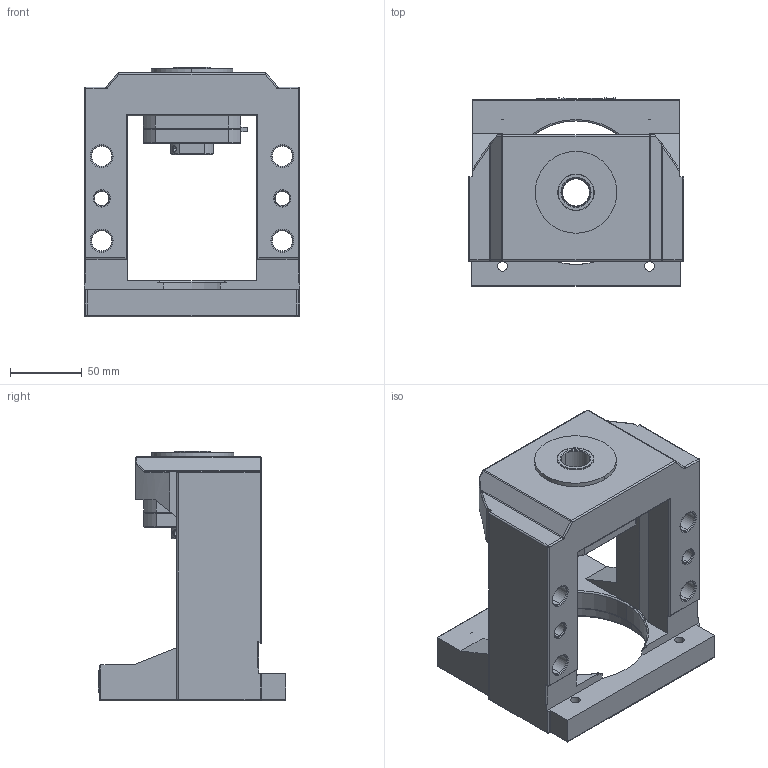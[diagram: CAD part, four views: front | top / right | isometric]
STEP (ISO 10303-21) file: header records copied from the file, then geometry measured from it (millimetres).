
FILE_DESCRIPTION((''),'2;1');
FILE_NAME('M130G-FK20B-B_ASM','2019-12-30T',('ASUS'),(''),'PRO/ENGINEER BY PARAMETRIC TECHNOLOGY CORPORATION, 2010280','PRO/ENGINEER BY PARAMETRIC TECHNOLOGY CORPORATION, 2010280','');
FILE_SCHEMA(('CONFIG_CONTROL_DESIGN'));
Length unit declared in the file: millimetre
Products named in the file (3): M130G-FK20B-B; FK20; M130G-FK20B-B_ASM
Assembly tree (2 placements, depth 2):
  M130G-FK20B-B_ASM
    M130G-FK20B-B
    FK20
Bounding box: 150 x 131 x 174 mm (x, y, z)
Volume: 828984 mm3; surface area: 170259.6 mm2
Topology: 1 solids, 4 shells, 1053 faces, 2947 edges, 1863 vertices
Faces by surface type: plane 354, cylinder 351, cone 128, torus 67, bspline 60, extrusion 55, sphere 38
Entity records: 46423 total; most frequent: CARTESIAN_POINT 19939, ORIENTED_EDGE 5802, DIRECTION 5141, EDGE_CURVE 2901, VERTEX_POINT 1863, AXIS2_PLACEMENT_3D 1830, VECTOR 1481, LINE 1426
